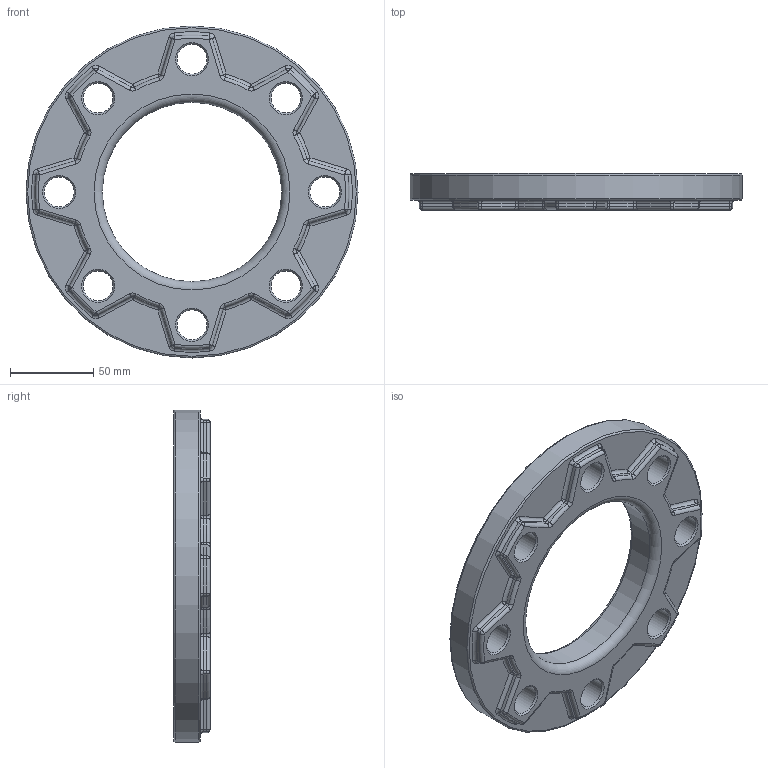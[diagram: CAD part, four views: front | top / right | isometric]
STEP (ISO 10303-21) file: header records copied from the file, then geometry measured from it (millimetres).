
FILE_DESCRIPTION(/* description */ ('Unknown'),/* implementation_level */ '2;1');
FILE_NAME(/* name */ 'FA090B',/* time_stamp */ '2022-07-19T14:45:29+02:00',/* author */ ('Unknown'),/* organization */ ('Unknown'),/* preprocessor_version */ 'ST-DEVELOPER v18.102',/* originating_system */ 'Solid Edge',/* authorisation */ 'Unknown');
FILE_SCHEMA (('AUTOMOTIVE_DESIGN {1 0 10303 214 3 1 1}'));
Length unit declared in the file: millimetre
Products named in the file (1): FA090B
Bounding box: 200 x 22 x 200 mm (x, y, z)
Volume: 384535.9 mm3; surface area: 68985.8 mm2
Topology: 1 solids, 1 shells, 225 faces, 542 edges, 288 vertices
Faces by surface type: cylinder 90, torus 68, sphere 32, plane 19, cone 16
Full cylindrical faces by diameter (mm): 18 x8, 108 x1, 200 x1
Entity records: 5984 total; most frequent: DIRECTION 1236, CARTESIAN_POINT 946, ORIENTED_EDGE 912, AXIS2_PLACEMENT_3D 554, EDGE_CURVE 456, CIRCLE 328, EDGE_LOOP 274, FACE_BOUND 274
